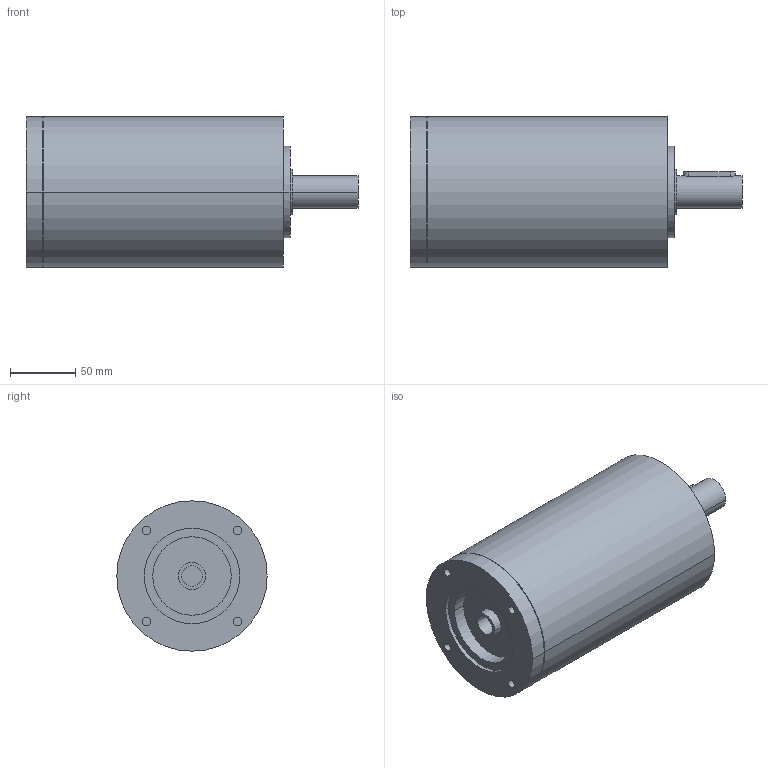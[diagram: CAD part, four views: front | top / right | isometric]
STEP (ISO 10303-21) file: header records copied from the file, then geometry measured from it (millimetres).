
FILE_DESCRIPTION(('CoCreate Modeling STEP Export'),'2;1');
FILE_NAME('GPR125_ig-48-64-80-100-140-196-245-343_25_B14_15.87_P04.stp','2014-08-26T14:21:02',(''),(''),'CoCreate Modeling STEP processor for AP214 (Solid Model)','CoCreate Modeling 16.00C 25-Feb-2009 (C) Parametric Technology GmbH','');
FILE_SCHEMA(('AUTOMOTIVE_DESIGN { 1 0 10303 214 1 1 1 1 }'));
Length unit declared in the file: millimetre
Products named in the file (2): GPR125_ig-48-64-80-100-140-196-245-343_25_B14_15.87_P04
Assembly tree (1 placements, depth 2):
  GPR125_ig-48-64-80-100-140-196-245-343_25_B14_15.87_P04
    GPR125_ig-48-64-80-100-140-196-245-343_25_B14_15.87_P04
Bounding box: 254 x 115 x 115 mm (x, y, z)
Volume: 2038880.8 mm3; surface area: 106999.2 mm2
Topology: 1 solids, 1 shells, 75 faces, 192 edges, 138 vertices
Faces by surface type: cylinder 46, plane 25, cone 4
Entity records: 1935 total; most frequent: ORIENTED_EDGE 380, CARTESIAN_POINT 359, DIRECTION 250, EDGE_CURVE 190, VERTEX_POINT 138, AXIS2_PLACEMENT_3D 97, EDGE_LOOP 96, FACE_OUTER_BOUND 75
